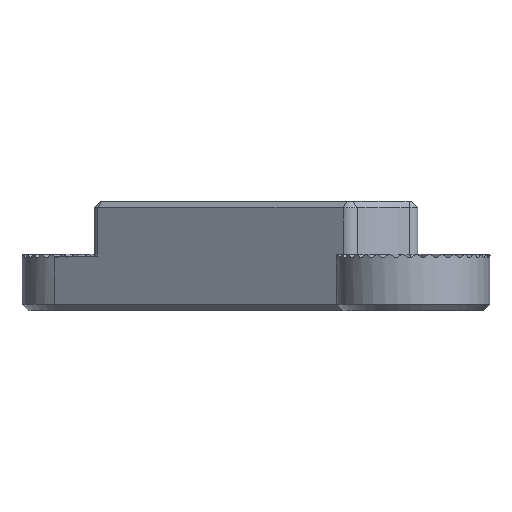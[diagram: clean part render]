
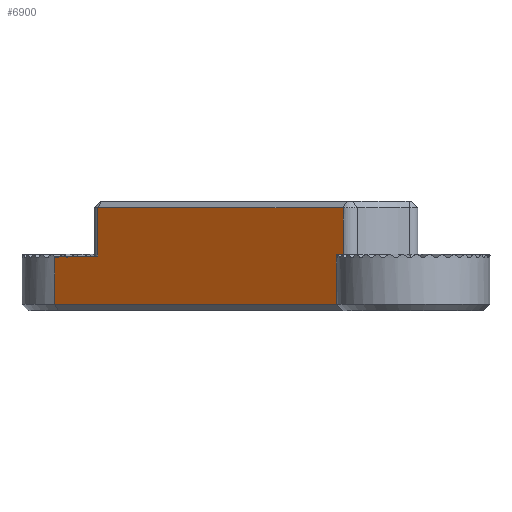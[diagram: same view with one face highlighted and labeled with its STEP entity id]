
A CAD part, left-side view. The second image highlights one B-rep face of the part: STEP entity #6900.
In plain terms, the highlighted planar face has unit normal (-0.819, 0.574, 0).
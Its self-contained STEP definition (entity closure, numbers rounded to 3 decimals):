
#405=PLANE('',#7447);
#738=FACE_OUTER_BOUND('',#1129,.T.);
#1129=EDGE_LOOP('',(#4844,#4845,#4846,#4847,#4848,#4849,#4850,#4851,#4852));
#1504=LINE('',#10502,#2019);
#1507=LINE('',#10523,#2022);
#1524=LINE('',#10790,#2039);
#1528=LINE('',#10811,#2043);
#1532=LINE('',#10835,#2047);
#1533=LINE('',#10836,#2048);
#1534=LINE('',#10838,#2049);
#1535=LINE('',#10840,#2050);
#1536=LINE('',#10841,#2051);
#2019=VECTOR('',#8210,10.);
#2022=VECTOR('',#8235,10.);
#2039=VECTOR('',#8500,10.);
#2043=VECTOR('',#8526,10.);
#2047=VECTOR('',#8556,10.);
#2048=VECTOR('',#8557,10.);
#2049=VECTOR('',#8558,10.);
#2050=VECTOR('',#8559,10.);
#2051=VECTOR('',#8560,10.);
#2775=VERTEX_POINT('',#10492);
#2777=VERTEX_POINT('',#10498);
#2785=VERTEX_POINT('',#10521);
#2908=VERTEX_POINT('',#10780);
#2910=VERTEX_POINT('',#10786);
#2917=VERTEX_POINT('',#10809);
#2924=VERTEX_POINT('',#10834);
#2925=VERTEX_POINT('',#10837);
#2926=VERTEX_POINT('',#10839);
#3510=EDGE_CURVE('',#2775,#2777,#1504,.T.);
#3521=EDGE_CURVE('',#2785,#2775,#1507,.T.);
#3654=EDGE_CURVE('',#2908,#2910,#1524,.T.);
#3665=EDGE_CURVE('',#2917,#2908,#1528,.T.);
#3676=EDGE_CURVE('',#2785,#2924,#1532,.T.);
#3677=EDGE_CURVE('',#2910,#2924,#1533,.T.);
#3678=EDGE_CURVE('',#2925,#2917,#1534,.T.);
#3679=EDGE_CURVE('',#2925,#2926,#1535,.T.);
#3680=EDGE_CURVE('',#2926,#2777,#1536,.T.);
#4844=ORIENTED_EDGE('',*,*,#3510,.F.);
#4845=ORIENTED_EDGE('',*,*,#3521,.F.);
#4846=ORIENTED_EDGE('',*,*,#3676,.T.);
#4847=ORIENTED_EDGE('',*,*,#3677,.F.);
#4848=ORIENTED_EDGE('',*,*,#3654,.F.);
#4849=ORIENTED_EDGE('',*,*,#3665,.F.);
#4850=ORIENTED_EDGE('',*,*,#3678,.F.);
#4851=ORIENTED_EDGE('',*,*,#3679,.T.);
#4852=ORIENTED_EDGE('',*,*,#3680,.T.);
#6900=ADVANCED_FACE('',(#738),#405,.T.);
#7447=AXIS2_PLACEMENT_3D('',#10833,#8554,#8555);
#8210=DIRECTION('',(0.574,0.819,0.));
#8235=DIRECTION('',(0.,0.,-1.));
#8500=DIRECTION('',(-0.574,-0.819,0.));
#8526=DIRECTION('',(0.,0.,1.));
#8554=DIRECTION('center_axis',(-0.819,0.574,0.));
#8555=DIRECTION('ref_axis',(0.574,0.819,0.));
#8556=DIRECTION('',(-0.574,-0.819,0.007));
#8557=DIRECTION('',(0.,0.,-1.));
#8558=DIRECTION('',(-0.574,-0.819,0.));
#8559=DIRECTION('',(0.,0.,-1.));
#8560=DIRECTION('',(0.,0.,-1.));
#10492=CARTESIAN_POINT('',(23.647,32.028,-22.));
#10498=CARTESIAN_POINT('',(115.651,163.423,-22.));
#10502=CARTESIAN_POINT('',(39.648,54.879,-22.));
#10521=CARTESIAN_POINT('',(23.647,32.028,0.574));
#10523=CARTESIAN_POINT('',(23.647,32.028,0.));
#10780=CARTESIAN_POINT('',(101.889,143.769,22.));
#10786=CARTESIAN_POINT('',(23.619,31.987,22.));
#10790=CARTESIAN_POINT('',(39.648,54.879,22.));
#10809=CARTESIAN_POINT('',(101.889,143.769,0.));
#10811=CARTESIAN_POINT('',(101.889,143.769,0.));
#10833=CARTESIAN_POINT('Origin',(21.002,28.251,0.));
#10834=CARTESIAN_POINT('',(23.619,31.987,0.575));
#10835=CARTESIAN_POINT('',(19.57,26.205,0.624));
#10836=CARTESIAN_POINT('',(23.619,31.987,0.));
#10837=CARTESIAN_POINT('',(115.651,163.423,0.));
#10838=CARTESIAN_POINT('',(39.648,54.879,0.));
#10839=CARTESIAN_POINT('',(115.651,163.423,-0.392));
#10840=CARTESIAN_POINT('',(115.651,163.423,0.));
#10841=CARTESIAN_POINT('',(115.651,163.423,0.));
